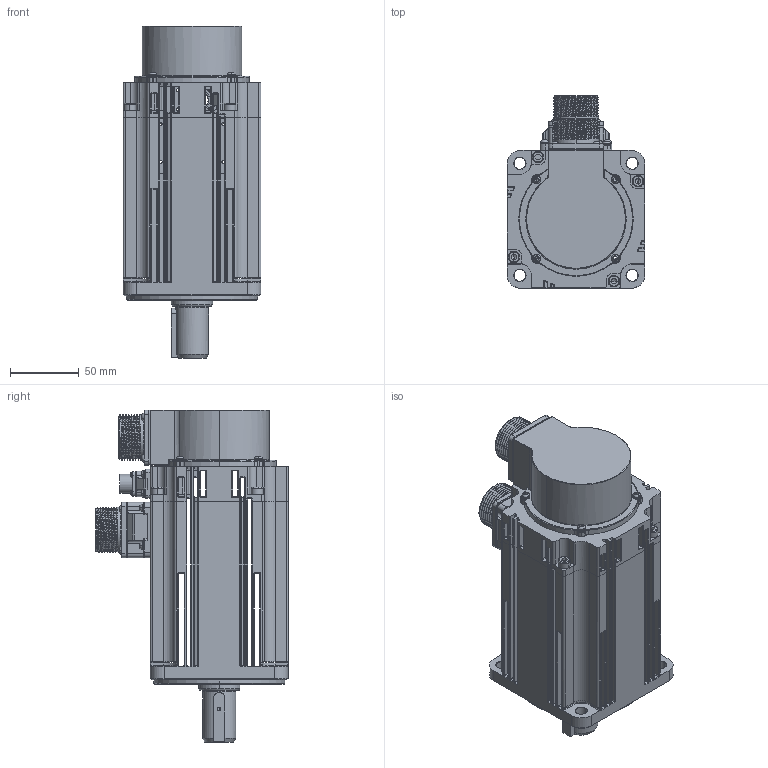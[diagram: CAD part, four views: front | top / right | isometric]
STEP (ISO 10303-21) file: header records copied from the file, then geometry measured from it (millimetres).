
FILE_DESCRIPTION (( 'STEP AP214' ), '1' );
FILE_NAME ('口100 2.0kW刹车电机（雷赛）.STEP', '2024-09-18T07:53:01', ( '' ), ( '' ), 'SwSTEP 2.0', 'SolidWorks 2021', '' );
FILE_SCHEMA (( 'AUTOMOTIVE_DESIGN' ));
Length unit declared in the file: millimetre
Products named in the file (1): 口100 2.0kW刹车电机（雷赛）
Bounding box: 100 x 139.5 x 240.7 mm (x, y, z)
Surface area: 145234.4 mm2 (no closed solid volume)
Topology: 0 solids, 95 shells, 1953 faces, 5634 edges, 3676 vertices
Faces by surface type: cylinder 833, plane 587, torus 360, sphere 79, cone 58, bspline 36
Entity records: 88848 total; most frequent: CARTESIAN_POINT 16082, DIRECTION 11917, ORIENTED_EDGE 9266, EDGE_CURVE 5559, AXIS2_PLACEMENT_3D 4703, VERTEX_POINT 3648, CIRCLE 2785, VECTOR 2511
